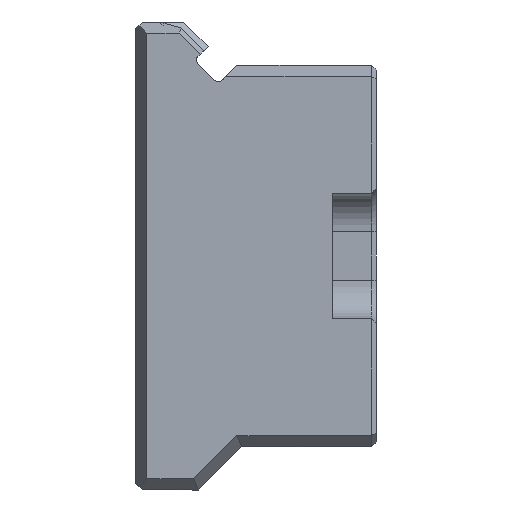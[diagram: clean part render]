
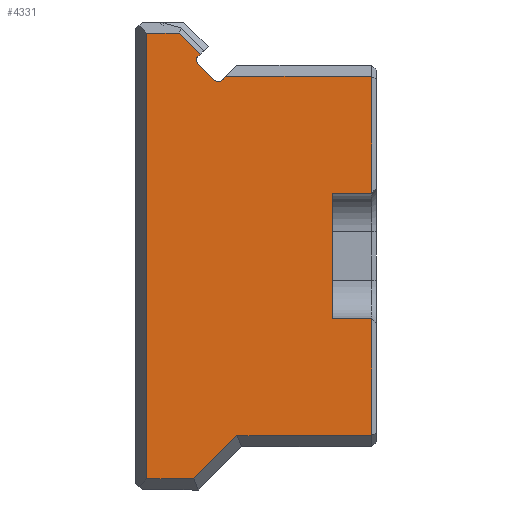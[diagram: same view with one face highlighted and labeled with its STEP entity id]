
A CAD part, left-side view. The second image highlights one B-rep face of the part: STEP entity #4331.
In plain terms, the highlighted planar face has unit normal (-1, 0, 0).
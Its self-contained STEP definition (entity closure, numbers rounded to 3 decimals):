
#115 = CARTESIAN_POINT ( 'NONE',  ( -96., 14.5, 19.8 ) ) ;
#223 = CARTESIAN_POINT ( 'NONE',  ( -96., 23.845, -23.145 ) ) ;
#375 = VECTOR ( 'NONE', #23213, 1000. ) ;
#486 = EDGE_CURVE ( 'NONE', #22958, #8767, #2852, .T. ) ;
#552 = DIRECTION ( 'NONE',  ( 0., 0., 1. ) ) ;
#572 = VERTEX_POINT ( 'NONE', #20532 ) ;
#764 = EDGE_CURVE ( 'NONE', #18773, #16914, #7785, .T. ) ;
#886 = ORIENTED_EDGE ( 'NONE', *, *, #9701, .T. ) ;
#1290 = CARTESIAN_POINT ( 'NONE',  ( -96., 23.845, 23.145 ) ) ;
#1436 = DIRECTION ( 'NONE',  ( 1., 0., 0. ) ) ;
#1674 = LINE ( 'NONE', #15484, #11665 ) ;
#1845 = LINE ( 'NONE', #7832, #4792 ) ;
#1988 = EDGE_CURVE ( 'NONE', #16914, #15774, #7729, .T. ) ;
#2481 = CARTESIAN_POINT ( 'NONE',  ( -96., 16.409, 18.598 ) ) ;
#2825 = VERTEX_POINT ( 'NONE', #9359 ) ;
#2852 = LINE ( 'NONE', #18843, #9229 ) ;
#2985 = EDGE_CURVE ( 'NONE', #11368, #2825, #4205, .T. ) ;
#3330 = LINE ( 'NONE', #9357, #375 ) ;
#3495 = DIRECTION ( 'NONE',  ( 0., 0.707, -0.707 ) ) ;
#3744 = DIRECTION ( 'NONE',  ( 0., 1., 0. ) ) ;
#3877 = LINE ( 'NONE', #17401, #6313 ) ;
#3953 = CARTESIAN_POINT ( 'NONE',  ( -96., 16.056, 18.244 ) ) ;
#4051 = VERTEX_POINT ( 'NONE', #1290 ) ;
#4055 = AXIS2_PLACEMENT_3D ( 'NONE', #23703, #7872, #20083 ) ;
#4084 = DIRECTION ( 'NONE',  ( 0., 0.707, 0.707 ) ) ;
#4205 = LINE ( 'NONE', #6033, #21183 ) ;
#4331 = ADVANCED_FACE ( 'NONE', ( #10104 ), #7755, .T. ) ;
#4344 = ORIENTED_EDGE ( 'NONE', *, *, #12933, .T. ) ;
#4455 = VECTOR ( 'NONE', #3495, 1000. ) ;
#4713 = AXIS2_PLACEMENT_3D ( 'NONE', #2481, #8625, #552 ) ;
#4788 = LINE ( 'NONE', #22095, #17138 ) ;
#4792 = VECTOR ( 'NONE', #9801, 1000. ) ;
#5039 = VECTOR ( 'NONE', #21813, 1000. ) ;
#5538 = EDGE_CURVE ( 'NONE', #14501, #25585, #3330, .T. ) ;
#5734 = ORIENTED_EDGE ( 'NONE', *, *, #486, .T. ) ;
#6030 = VECTOR ( 'NONE', #7285, 1000. ) ;
#6033 = CARTESIAN_POINT ( 'NONE',  ( -96., 16.409, 17.891 ) ) ;
#6083 = ORIENTED_EDGE ( 'NONE', *, *, #764, .T. ) ;
#6197 = DIRECTION ( 'NONE',  ( 0., 1., 0. ) ) ;
#6313 = VECTOR ( 'NONE', #11841, 1000. ) ;
#6358 = DIRECTION ( 'NONE',  ( 0., -1., 0. ) ) ;
#6522 = DIRECTION ( 'NONE',  ( 0., -0.707, 0.707 ) ) ;
#6637 = ORIENTED_EDGE ( 'NONE', *, *, #1988, .T. ) ;
#7036 = EDGE_CURVE ( 'NONE', #2825, #22695, #9349, .T. ) ;
#7285 = DIRECTION ( 'NONE',  ( 0., -0.707, 0.707 ) ) ;
#7680 = EDGE_CURVE ( 'NONE', #22695, #9659, #18088, .T. ) ;
#7729 = LINE ( 'NONE', #14246, #21321 ) ;
#7739 = ORIENTED_EDGE ( 'NONE', *, *, #16346, .T. ) ;
#7755 = PLANE ( 'NONE',  #4055 ) ;
#7785 = LINE ( 'NONE', #22083, #10929 ) ;
#7832 = CARTESIAN_POINT ( 'NONE',  ( -96., 23.845, -24.3 ) ) ;
#7872 = DIRECTION ( 'NONE',  ( -1., 0., 0. ) ) ;
#8197 = DIRECTION ( 'NONE',  ( 0., 0., 1. ) ) ;
#8279 = ORIENTED_EDGE ( 'NONE', *, *, #7036, .T. ) ;
#8293 = CARTESIAN_POINT ( 'NONE',  ( -96., 0.5, 6.5 ) ) ;
#8625 = DIRECTION ( 'NONE',  ( 1., 0., 0. ) ) ;
#8682 = EDGE_CURVE ( 'NONE', #15774, #572, #1674, .T. ) ;
#8767 = VERTEX_POINT ( 'NONE', #23745 ) ;
#9067 = ORIENTED_EDGE ( 'NONE', *, *, #8682, .T. ) ;
#9229 = VECTOR ( 'NONE', #14825, 1000. ) ;
#9349 = CIRCLE ( 'NONE', #15971, 0.5 ) ;
#9357 = CARTESIAN_POINT ( 'NONE',  ( -96., 4.6, -6.5 ) ) ;
#9359 = CARTESIAN_POINT ( 'NONE',  ( -96., 18.531, 20.012 ) ) ;
#9636 = CARTESIAN_POINT ( 'NONE',  ( -96., 18.291, 20.958 ) ) ;
#9643 = CARTESIAN_POINT ( 'NONE',  ( -96., 0.5, -18.645 ) ) ;
#9659 = VERTEX_POINT ( 'NONE', #9636 ) ;
#9701 = EDGE_CURVE ( 'NONE', #16613, #25585, #4788, .T. ) ;
#9801 = DIRECTION ( 'NONE',  ( 0., 0., -1. ) ) ;
#9971 = CARTESIAN_POINT ( 'NONE',  ( -96., 18.177, 20.366 ) ) ;
#10104 = FACE_OUTER_BOUND ( 'NONE', #11141, .T. ) ;
#10641 = LINE ( 'NONE', #20100, #18689 ) ;
#10702 = CARTESIAN_POINT ( 'NONE',  ( -96., 4.6, 6.5 ) ) ;
#10869 = VERTEX_POINT ( 'NONE', #15766 ) ;
#10899 = CARTESIAN_POINT ( 'NONE',  ( -96., 14.478, -18.645 ) ) ;
#10929 = VECTOR ( 'NONE', #6358, 1000. ) ;
#11141 = EDGE_LOOP ( 'NONE', ( #24004, #8279, #23187, #12197, #19658, #14218, #5734, #16075, #4344, #886, #19740, #12893, #6083, #6637, #9067, #18386, #7739 ) ) ;
#11368 = VERTEX_POINT ( 'NONE', #11957 ) ;
#11425 = EDGE_CURVE ( 'NONE', #18773, #14501, #3877, .T. ) ;
#11665 = VECTOR ( 'NONE', #3744, 1000. ) ;
#11841 = DIRECTION ( 'NONE',  ( 0., 0., -1. ) ) ;
#11957 = CARTESIAN_POINT ( 'NONE',  ( -96., 16.763, 18.244 ) ) ;
#12197 = ORIENTED_EDGE ( 'NONE', *, *, #20104, .T. ) ;
#12403 = CARTESIAN_POINT ( 'NONE',  ( -96., 0., -18.645 ) ) ;
#12475 = CARTESIAN_POINT ( 'NONE',  ( -96., 4.6, -6.5 ) ) ;
#12893 = ORIENTED_EDGE ( 'NONE', *, *, #11425, .F. ) ;
#12933 = EDGE_CURVE ( 'NONE', #13639, #16613, #17972, .T. ) ;
#12995 = LINE ( 'NONE', #19221, #6030 ) ;
#13639 = VERTEX_POINT ( 'NONE', #10899 ) ;
#13850 = VERTEX_POINT ( 'NONE', #3953 ) ;
#13899 = DIRECTION ( 'NONE',  ( 0., 0., 1. ) ) ;
#14218 = ORIENTED_EDGE ( 'NONE', *, *, #23995, .T. ) ;
#14246 = CARTESIAN_POINT ( 'NONE',  ( -96., 0.5, 18.645 ) ) ;
#14363 = DIRECTION ( 'NONE',  ( 0., -1., 0. ) ) ;
#14501 = VERTEX_POINT ( 'NONE', #12475 ) ;
#14592 = VECTOR ( 'NONE', #6522, 1000. ) ;
#14825 = DIRECTION ( 'NONE',  ( 0., -1., 0. ) ) ;
#15484 = CARTESIAN_POINT ( 'NONE',  ( -96., 15.5, 18.645 ) ) ;
#15766 = CARTESIAN_POINT ( 'NONE',  ( -96., 20.478, 23.145 ) ) ;
#15774 = VERTEX_POINT ( 'NONE', #24568 ) ;
#15971 = AXIS2_PLACEMENT_3D ( 'NONE', #9971, #1436, #13899 ) ;
#16075 = ORIENTED_EDGE ( 'NONE', *, *, #24019, .T. ) ;
#16346 = EDGE_CURVE ( 'NONE', #13850, #11368, #18811, .T. ) ;
#16512 = CARTESIAN_POINT ( 'NONE',  ( -96., 18.531, 20.719 ) ) ;
#16613 = VERTEX_POINT ( 'NONE', #9643 ) ;
#16914 = VERTEX_POINT ( 'NONE', #8293 ) ;
#17138 = VECTOR ( 'NONE', #8197, 1000. ) ;
#17401 = CARTESIAN_POINT ( 'NONE',  ( -96., 4.6, -6.5 ) ) ;
#17902 = LINE ( 'NONE', #115, #4455 ) ;
#17972 = LINE ( 'NONE', #12403, #24391 ) ;
#18088 = LINE ( 'NONE', #23781, #14592 ) ;
#18386 = ORIENTED_EDGE ( 'NONE', *, *, #21866, .T. ) ;
#18689 = VECTOR ( 'NONE', #6197, 1000. ) ;
#18773 = VERTEX_POINT ( 'NONE', #10702 ) ;
#18811 = CIRCLE ( 'NONE', #4713, 0.5 ) ;
#18843 = CARTESIAN_POINT ( 'NONE',  ( -96., 18.5, -23.145 ) ) ;
#19221 = CARTESIAN_POINT ( 'NONE',  ( -96., 14.816, -18.984 ) ) ;
#19364 = EDGE_CURVE ( 'NONE', #10869, #4051, #10641, .T. ) ;
#19658 = ORIENTED_EDGE ( 'NONE', *, *, #19364, .T. ) ;
#19740 = ORIENTED_EDGE ( 'NONE', *, *, #5538, .F. ) ;
#19831 = LINE ( 'NONE', #23858, #5039 ) ;
#20083 = DIRECTION ( 'NONE',  ( 0., 0., 1. ) ) ;
#20100 = CARTESIAN_POINT ( 'NONE',  ( -96., 25., 23.145 ) ) ;
#20104 = EDGE_CURVE ( 'NONE', #9659, #10869, #19831, .T. ) ;
#20532 = CARTESIAN_POINT ( 'NONE',  ( -96., 15.655, 18.645 ) ) ;
#21183 = VECTOR ( 'NONE', #4084, 1000. ) ;
#21321 = VECTOR ( 'NONE', #23927, 1000. ) ;
#21813 = DIRECTION ( 'NONE',  ( 0., 0.707, 0.707 ) ) ;
#21866 = EDGE_CURVE ( 'NONE', #572, #13850, #17902, .T. ) ;
#22006 = CARTESIAN_POINT ( 'NONE',  ( -96., 0.5, -6.5 ) ) ;
#22083 = CARTESIAN_POINT ( 'NONE',  ( -96., 4.6, 6.5 ) ) ;
#22095 = CARTESIAN_POINT ( 'NONE',  ( -96., 0.5, -6.5 ) ) ;
#22695 = VERTEX_POINT ( 'NONE', #16512 ) ;
#22958 = VERTEX_POINT ( 'NONE', #223 ) ;
#23187 = ORIENTED_EDGE ( 'NONE', *, *, #7680, .T. ) ;
#23213 = DIRECTION ( 'NONE',  ( 0., -1., 0. ) ) ;
#23703 = CARTESIAN_POINT ( 'NONE',  ( -96., 0., 0. ) ) ;
#23745 = CARTESIAN_POINT ( 'NONE',  ( -96., 18.978, -23.145 ) ) ;
#23781 = CARTESIAN_POINT ( 'NONE',  ( -96., 16.975, 22.275 ) ) ;
#23858 = CARTESIAN_POINT ( 'NONE',  ( -96., 20.816, 23.484 ) ) ;
#23927 = DIRECTION ( 'NONE',  ( 0., 0., 1. ) ) ;
#23995 = EDGE_CURVE ( 'NONE', #4051, #22958, #1845, .T. ) ;
#24004 = ORIENTED_EDGE ( 'NONE', *, *, #2985, .T. ) ;
#24019 = EDGE_CURVE ( 'NONE', #8767, #13639, #12995, .T. ) ;
#24391 = VECTOR ( 'NONE', #14363, 1000. ) ;
#24568 = CARTESIAN_POINT ( 'NONE',  ( -96., 0.5, 18.645 ) ) ;
#25585 = VERTEX_POINT ( 'NONE', #22006 ) ;
